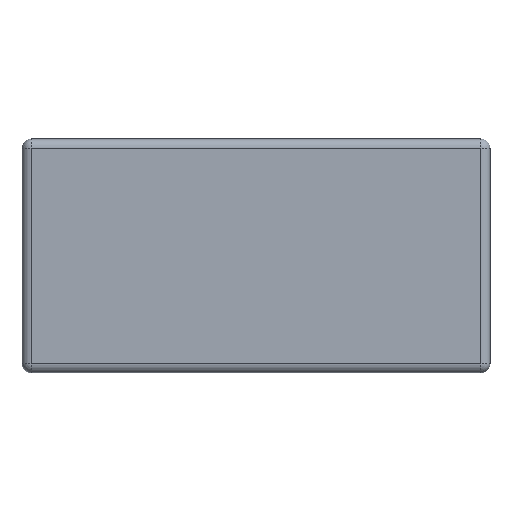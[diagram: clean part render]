
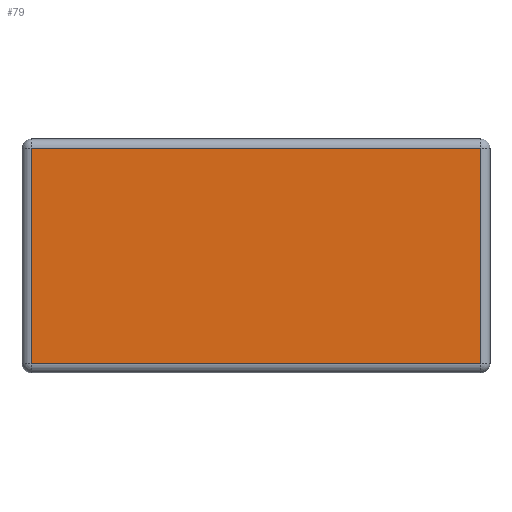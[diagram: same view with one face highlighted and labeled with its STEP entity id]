
A CAD part, front view. The second image highlights one B-rep face of the part: STEP entity #79.
In plain terms, the highlighted planar face has unit normal (0, -1, 0).
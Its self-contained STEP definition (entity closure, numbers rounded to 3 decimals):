
#79 = ADVANCED_FACE ( 'NONE', ( #1219 ), #763, .F. ) ;
#98 = VECTOR ( 'NONE', #2047, 1000. ) ;
#174 = ORIENTED_EDGE ( 'NONE', *, *, #2075, .T. ) ;
#315 = VERTEX_POINT ( 'NONE', #723 ) ;
#360 = CARTESIAN_POINT ( 'NONE',  ( 69.448, 0., 0. ) ) ;
#423 = CARTESIAN_POINT ( 'NONE',  ( 69.448, 0., -20.188 ) ) ;
#476 = ORIENTED_EDGE ( 'NONE', *, *, #2026, .T. ) ;
#504 = CARTESIAN_POINT ( 'NONE',  ( -26.552, 0., 0. ) ) ;
#545 = LINE ( 'NONE', #504, #98 ) ;
#587 = VERTEX_POINT ( 'NONE', #423 ) ;
#723 = CARTESIAN_POINT ( 'NONE',  ( -26.552, 0., 25.812 ) ) ;
#754 = AXIS2_PLACEMENT_3D ( 'NONE', #1440, #1956, #935 ) ;
#756 = VECTOR ( 'NONE', #1022, 1000. ) ;
#763 = PLANE ( 'NONE',  #754 ) ;
#815 = CARTESIAN_POINT ( 'NONE',  ( 69.448, 0., 25.812 ) ) ;
#878 = EDGE_CURVE ( 'NONE', #315, #1434, #545, .T. ) ;
#935 = DIRECTION ( 'NONE',  ( 0., 0., 1. ) ) ;
#980 = ORIENTED_EDGE ( 'NONE', *, *, #878, .T. ) ;
#1022 = DIRECTION ( 'NONE',  ( 1., 0., 0. ) ) ;
#1039 = EDGE_CURVE ( 'NONE', #587, #1403, #1303, .T. ) ;
#1203 = CARTESIAN_POINT ( 'NONE',  ( 0., 0., -20.188 ) ) ;
#1218 = LINE ( 'NONE', #1203, #756 ) ;
#1219 = FACE_OUTER_BOUND ( 'NONE', #1565, .T. ) ;
#1303 = LINE ( 'NONE', #360, #2042 ) ;
#1341 = ORIENTED_EDGE ( 'NONE', *, *, #1039, .T. ) ;
#1403 = VERTEX_POINT ( 'NONE', #815 ) ;
#1434 = VERTEX_POINT ( 'NONE', #1849 ) ;
#1440 = CARTESIAN_POINT ( 'NONE',  ( 0., 0., 0. ) ) ;
#1542 = CARTESIAN_POINT ( 'NONE',  ( 0., 0., 25.812 ) ) ;
#1555 = DIRECTION ( 'NONE',  ( 0., 0., 1. ) ) ;
#1565 = EDGE_LOOP ( 'NONE', ( #1341, #174, #980, #476 ) ) ;
#1657 = LINE ( 'NONE', #1542, #2070 ) ;
#1709 = DIRECTION ( 'NONE',  ( -1., 0., 0. ) ) ;
#1849 = CARTESIAN_POINT ( 'NONE',  ( -26.552, 0., -20.188 ) ) ;
#1956 = DIRECTION ( 'NONE',  ( 0., 1., 0. ) ) ;
#2026 = EDGE_CURVE ( 'NONE', #1434, #587, #1218, .T. ) ;
#2042 = VECTOR ( 'NONE', #1555, 1000. ) ;
#2047 = DIRECTION ( 'NONE',  ( 0., 0., -1. ) ) ;
#2070 = VECTOR ( 'NONE', #1709, 1000. ) ;
#2075 = EDGE_CURVE ( 'NONE', #1403, #315, #1657, .T. ) ;
